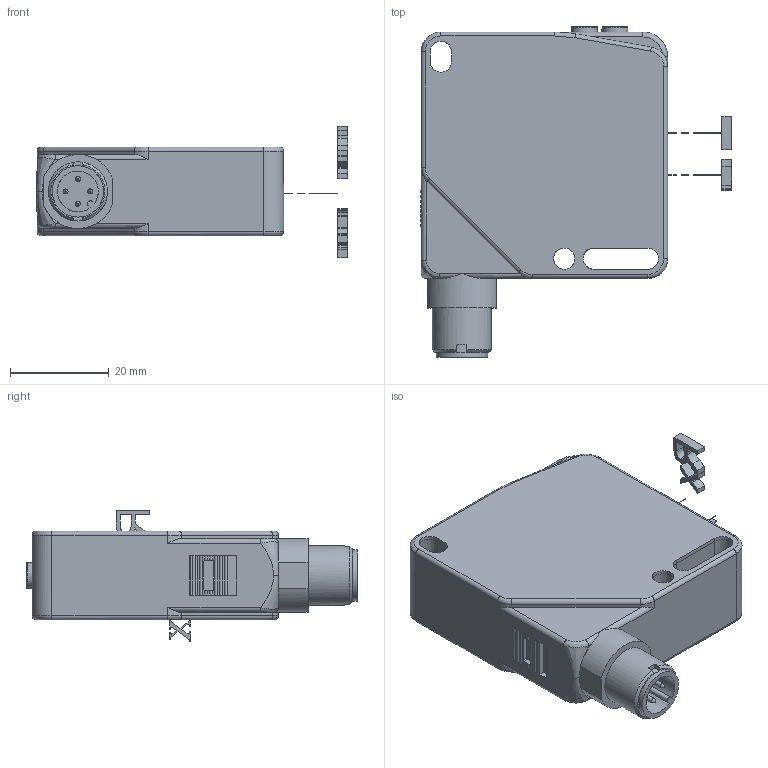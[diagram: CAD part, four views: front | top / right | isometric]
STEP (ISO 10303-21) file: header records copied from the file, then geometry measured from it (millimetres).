
FILE_DESCRIPTION(/* description */ (''),/* implementation_level */ '2;1');
FILE_NAME(/* name */ 'DSD-0137a S62L-B Conn.stp',/* time_stamp */ '2014-10-28T15:20:17+01:00',/* author */ (''),/* organization */ (''),/* preprocessor_version */ 'ST-DEVELOPER v11',/* originating_system */ 'SIEMENS PLM Software NX 7.5',/* authorisation */ '');
FILE_SCHEMA (('AP203_CONFIGURATION_CONTROLLED_3D_DESIGN_OF_MECHANICAL_PARTS_AND_ASSEMBLIES_MIM_LF'));
Length unit declared in the file: millimetre
Products named in the file (1): AP007853_00
Bounding box: 63.18 x 67.1 x 26.68 mm (x, y, z)
Surface area: 11431.9 mm2
Topology: 9 solids, 13 shells, 593 faces, 1462 edges, 898 vertices
Faces by surface type: plane 273, cylinder 142, bspline 141, cone 35, torus 2
Full cylindrical faces by diameter (mm): 0.1 x6, 1 x4, 4.3 x1, 4.95 x1, 10.4 x1, 12 x1
Entity records: 40048 total; most frequent: CARTESIAN_POINT 24951, ORIENTED_EDGE 2824, EDGE_CURVE 1415, DIRECTION 1145, B_SPLINE_CURVE_WITH_KNOTS 1119, VERTEX_POINT 896, EDGE_LOOP 655, PRESENTATION_STYLE_ASSIGNMENT 604
